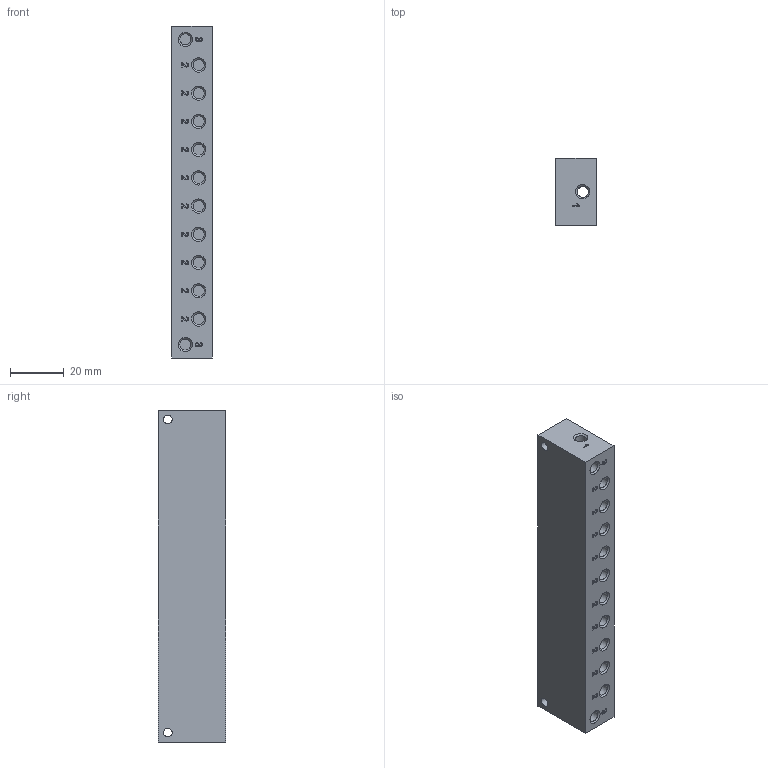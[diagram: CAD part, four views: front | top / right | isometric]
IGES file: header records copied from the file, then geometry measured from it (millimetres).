
Global section: file name: 395_10; native system: Autodesk Inventor 2014; preprocessor: unknown; author: R.Rivoltella; organization: Pneumax S.p.A.; date: 20161005.082348; units: millimetre
Bounding box: 15 x 25 x 123.5 mm (x, y, z)
Volume: 43230.7 mm3; surface area: 13648 mm2
Topology: 1 solids, 1 shells, 303 faces, 869 edges, 596 vertices
Faces by surface type: bspline 303
